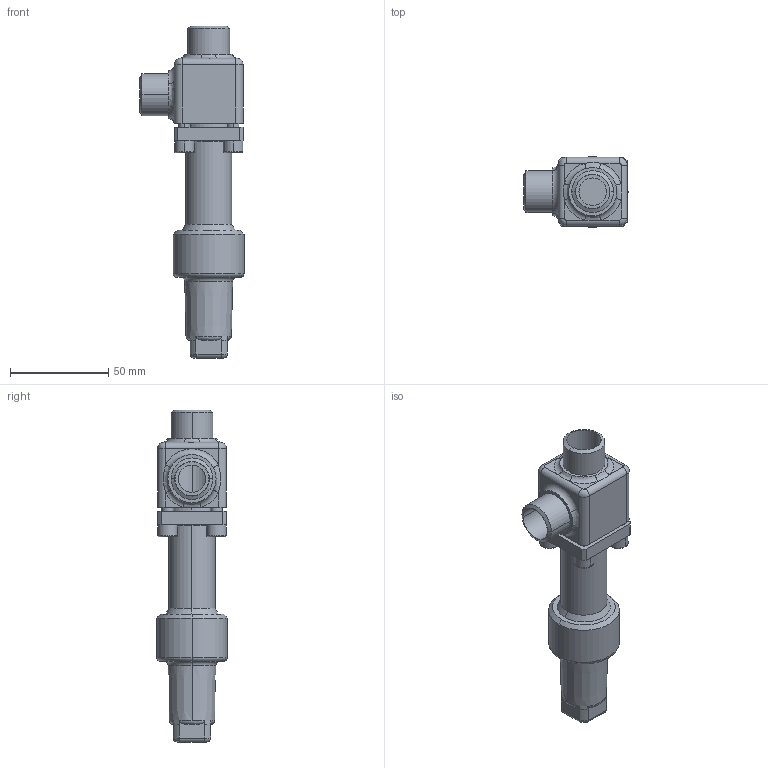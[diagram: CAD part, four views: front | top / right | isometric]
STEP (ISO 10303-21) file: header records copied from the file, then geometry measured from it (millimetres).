
FILE_DESCRIPTION (( 'STEP AP214' ), '1' );
FILE_NAME ('RVA99400-DN015_R1_PS40.STEP', '2006-05-02T09:44:47', ( 'Herr Grams' ), ( 'AWP GmbH' ), 'SwSTEP 2.0', 'SolidWorks 2002296', '' );
FILE_SCHEMA (( 'AUTOMOTIVE_DESIGN' ));
Length unit declared in the file: millimetre
Products named in the file (6): RVA99400-DN015_R1_PS40; RVA99300E10_Deck+Schr-DN6-15_Standard; Deckel99300E10-DN6-15_PS40_Standard; Zylinderschraube-DIN912_M 6x 18; Gehäuse96400E10-DN15_PS40_R1_Standard; Kappe96300E10_DN6-20_Standard
Assembly tree (8 placements, depth 3):
  RVA99400-DN015_R1_PS40
    RVA99300E10_Deck+Schr-DN6-15_Standard
      Deckel99300E10-DN6-15_PS40_Standard
      Zylinderschraube-DIN912_M 6x 18  x4
    Kappe96300E10_DN6-20_Standard
    Gehäuse96400E10-DN15_PS40_R1_Standard
Bounding box: 53 x 36 x 169 mm (x, y, z)
Volume: 101739.3 mm3; surface area: 33870.3 mm2
Topology: 7 solids, 7 shells, 231 faces, 511 edges, 314 vertices
Faces by surface type: cylinder 84, plane 82, torus 34, cone 24, bspline 7
Entity records: 10084 total; most frequent: CARTESIAN_POINT 5360, DIRECTION 933, ORIENTED_EDGE 794, EDGE_CURVE 397, AXIS2_PLACEMENT_3D 392, VERTEX_POINT 242, CIRCLE 210, EDGE_LOOP 203
